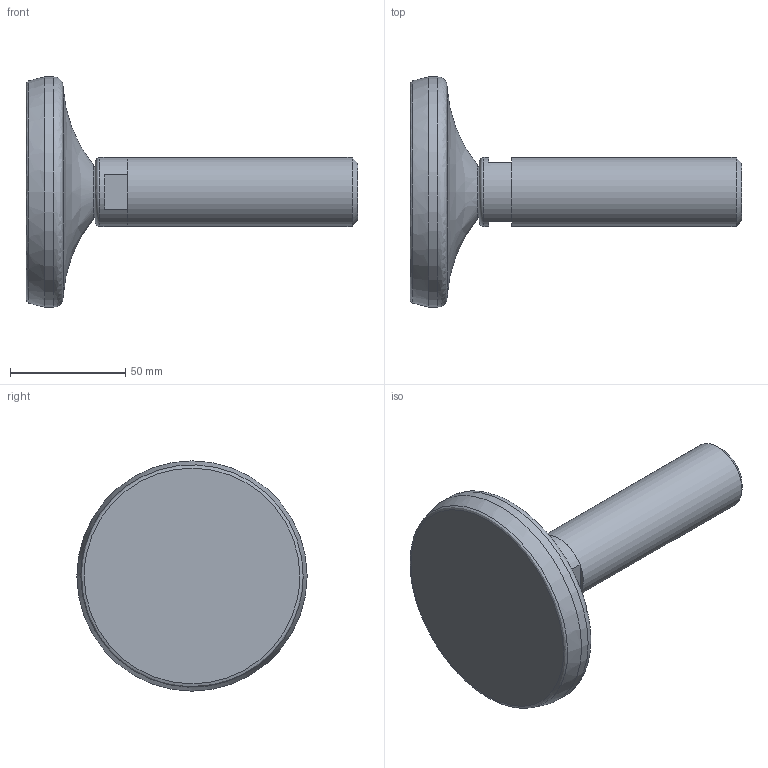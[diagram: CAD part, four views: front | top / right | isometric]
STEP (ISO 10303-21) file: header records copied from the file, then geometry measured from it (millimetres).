
FILE_DESCRIPTION(('STEP AP203'),'2;1');
FILE_NAME('25180.stp','2017-01-23T11:01:19',(''),(''),'2008.1.107','THINKDESIGN','');
FILE_SCHEMA(('CONFIG_CONTROL_DESIGN'));
Length unit declared in the file: millimetre
Bounding box: 144 x 100 x 100 mm (x, y, z)
Volume: 227801.1 mm3; surface area: 48947.4 mm2
Topology: 4 solids, 4 shells, 22 faces, 49 edges, 35 vertices
Faces by surface type: plane 12, bspline 7, cylinder 3
Full cylindrical faces by diameter (mm): 30 x2, 100 x1
Entity records: 1679 total; most frequent: CARTESIAN_POINT 1089, DIRECTION 107, ORIENTED_EDGE 98, EDGE_CURVE 49, AXIS2_PLACEMENT_3D 47, VERTEX_POINT 35, CIRCLE 32, EDGE_LOOP 22
